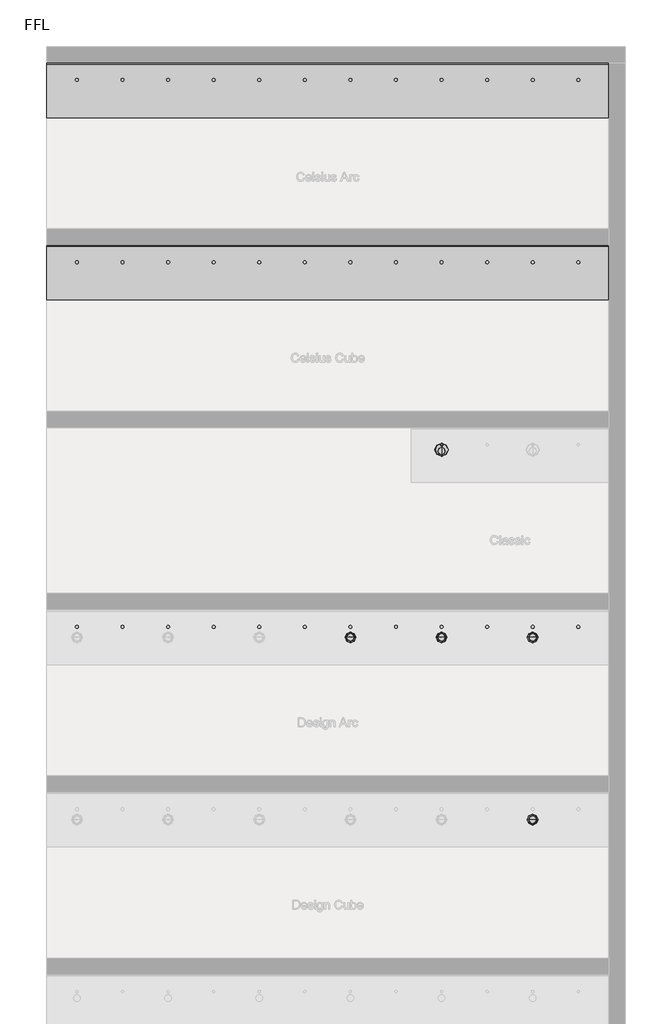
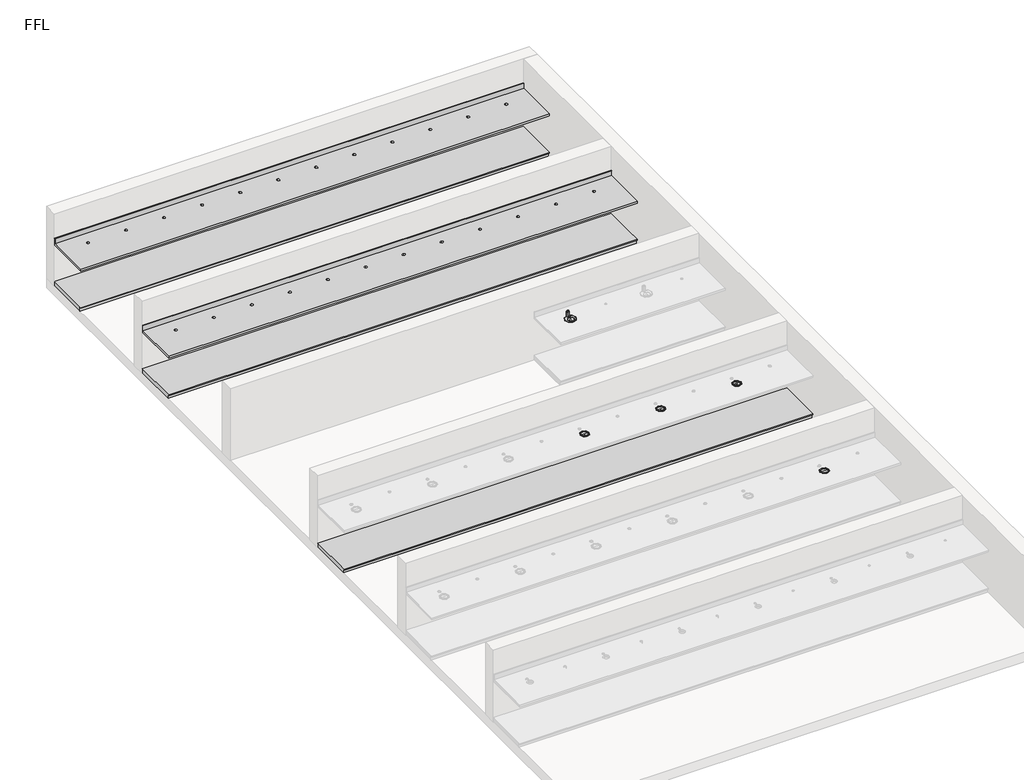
# One storey, part 3 of 5: 5 flow terminals, 5 furniture elements.
"""IFC4 building model written with IfcOpenShell, lengths in millimetres."""

from ifc_helpers import new_model, si_unit, frame, origin, place, context, project, spatial, polyline, circle_curve, transform, mapped, element, save
from ifc_brep_helpers import plane_surface, revolved_surface, advanced_brep
from components import bright_chrome_13082571, bright_chrome_743c02cf, generic_plinth_900mm_08863006

model = new_model("IFC4")

# Units and contexts
model_context = context("Model", 3, world=origin())
ifc_project = project(units=[si_unit("LENGTHUNIT", "METRE", prefix="MILLI")], contexts=[model_context])

# Site, building, storey
site = spatial("IfcSite", under=ifc_project)
building = spatial("IfcBuilding", under=site)
storey = spatial("IfcBuildingStorey", under=building, Name="FFL", Elevation=0.0)

# Flow terminals
placement = place(None, origin())
bright_chrome_shape = bright_chrome_13082571(model_context)
element("IfcFlowTerminal", 1, ObjectType="z_PlumFixt_Zip Australia_Font and Tap Riser : Bright Chrome", at=placement, inside=storey, context=model_context, shape_type="MappedRepresentation", body=[
    mapped(bright_chrome_shape, transform((-470.7352929, 7467.9893304, 900.0), x_axis=(1.0, 0.0, 0.0), y_axis=(0.0, 1.0, 0.0), z_axis=(0.0, 0.0, 1.0))),
])
bright_chrome_2_shape = bright_chrome_743c02cf(model_context)
element("IfcFlowTerminal", 2, ObjectType="z_PlumFixt_Zip Australia_Font : Gold", at=placement, inside=storey, context=model_context, shape_type="MappedRepresentation", body=[
    mapped(bright_chrome_2_shape, transform((-1970.7352929, 4381.2393304, 900.0), x_axis=(1.0, 0.0, 0.0), y_axis=(0.0, 1.0, 0.0), z_axis=(0.0, 0.0, 1.0))),
])
element("IfcFlowTerminal", 3, ObjectType="z_PlumFixt_Zip Australia_Font : Matte Black", at=placement, inside=storey, context=model_context, shape_type="MappedRepresentation", body=[
    mapped(bright_chrome_2_shape, transform((-470.7352929, 4381.2393304, 900.0), x_axis=(1.0, 0.0, 0.0), y_axis=(0.0, 1.0, 0.0), z_axis=(0.0, 0.0, 1.0))),
])
element("IfcFlowTerminal", 4, ObjectType="z_PlumFixt_Zip Australia_Font : Platinum", at=placement, inside=storey, context=model_context, shape_type="MappedRepresentation", body=[
    mapped(bright_chrome_2_shape, transform((1029.2647071, 4381.2393304, 900.0), x_axis=(1.0, 0.0, 0.0), y_axis=(0.0, 1.0, 0.0), z_axis=(0.0, 0.0, 1.0))),
])
element("IfcFlowTerminal", 5, ObjectType="z_PlumFixt_Zip Australia_Font : Platinum", at=placement, inside=storey, context=model_context, shape_type="MappedRepresentation", body=[
    mapped(bright_chrome_2_shape, transform((1029.2647071, 1381.2393304, 900.0), x_axis=(1.0, 0.0, 0.0), y_axis=(0.0, 1.0, 0.0), z_axis=(0.0, 0.0, 1.0))),
])

# Furniture
element("IfcFurniture", 6, ObjectType="Counter Top : 900mm Depth", at=placement, inside=storey, context=model_context, shape_type="AdvancedBrep", body=[
    advanced_brep(
    [(-6969.7352929, 12948.2393304, 900.0), (2280.2657919, 12948.2393304, 900.0), (2280.2657919, 13829.1893304, 900.0), (-6969.7352929, 13829.1893304, 900.0), (-6469.7352929, 13543.7393304, 900.0), (-6469.7352929, 13592.7393304, 900.0), (-5719.7352929, 13543.7393304, 900.0), (-5719.7352929, 13592.7393304, 900.0), (-4969.7352929, 13543.7393304, 900.0), (-4969.7352929, 13592.7393304, 900.0), (-4219.7352929, 13543.7393304, 900.0), (-4219.7352929, 13592.7393304, 900.0), (-3469.7352929, 13543.7393304, 900.0), (-3469.7352929, 13592.7393304, 900.0), (-2719.7352929, 13543.7393304, 900.0), (-2719.7352929, 13592.7393304, 900.0), (-1969.7352929, 13543.7393304, 900.0), (-1969.7352929, 13592.7393304, 900.0), (-1219.7352929, 13543.7393304, 900.0), (-1219.7352929, 13592.7393304, 900.0), (-469.7352929, 13543.7393304, 900.0), (-469.7352929, 13592.7393304, 900.0), (280.2647071, 13543.7393304, 900.0), (280.2647071, 13592.7393304, 900.0), (1030.2647071, 13543.7393304, 900.0), (1030.2647071, 13592.7393304, 900.0), (1780.2647071, 13543.7393304, 900.0), (1780.2647071, 13592.7393304, 900.0), (2280.2657919, 13848.2393304, 860.0), (2280.2657919, 12948.2393304, 860.0), (-6969.7352929, 12948.2393304, 860.0), (-6969.7352929, 13848.2393304, 860.0), (-6469.7352929, 13592.7393304, 860.0), (-6469.7352929, 13543.7393304, 860.0), (-5719.7352929, 13592.7393304, 860.0), (-5719.7352929, 13543.7393304, 860.0), (-4969.7352929, 13592.7393304, 860.0), (-4969.7352929, 13543.7393304, 860.0), (-4219.7352929, 13592.7393304, 860.0), (-4219.7352929, 13543.7393304, 860.0), (-3469.7352929, 13592.7393304, 860.0), (-3469.7352929, 13543.7393304, 860.0), (-2719.7352929, 13592.7393304, 860.0), (-2719.7352929, 13543.7393304, 860.0), (-1969.7352929, 13592.7393304, 860.0), (-1969.7352929, 13543.7393304, 860.0), (-1219.7352929, 13592.7393304, 860.0), (-1219.7352929, 13543.7393304, 860.0), (-469.7352929, 13592.7393304, 860.0), (-469.7352929, 13543.7393304, 860.0), (280.2647071, 13592.7393304, 860.0), (280.2647071, 13543.7393304, 860.0), (1030.2647071, 13592.7393304, 860.0), (1030.2647071, 13543.7393304, 860.0), (1780.2647071, 13592.7393304, 860.0), (1780.2647071, 13543.7393304, 860.0), (-6969.7352929, 13848.2393304, 1001.6), (2280.2657919, 13848.2393304, 1001.6), (-6969.7352929, 13829.1893304, 1001.6), (2280.2657919, 13829.1893304, 1001.6)],
    [
        (0, 1),
        (1, 2),
        (2, 3),
        (3, 0),
        (4, 5, circle_curve(frame((-6469.7352929, 13568.2393304, 900.0), z_axis=(0.0, 0.0, -1.0), x_axis=(0.0, -1.0, 0.0)), 24.5)),
        (5, 4, circle_curve(frame((-6469.7352929, 13568.2393304, 900.0), z_axis=(0.0, 0.0, -1.0), x_axis=(0.0, -1.0, 0.0)), 24.5)),
        (6, 7, circle_curve(frame((-5719.7352929, 13568.2393304, 900.0), z_axis=(0.0, 0.0, -1.0), x_axis=(0.0, -1.0, 0.0)), 24.5)),
        (7, 6, circle_curve(frame((-5719.7352929, 13568.2393304, 900.0), z_axis=(0.0, 0.0, -1.0), x_axis=(0.0, -1.0, 0.0)), 24.5)),
        (8, 9, circle_curve(frame((-4969.7352929, 13568.2393304, 900.0), z_axis=(0.0, 0.0, -1.0), x_axis=(0.0, -1.0, 0.0)), 24.5)),
        (9, 8, circle_curve(frame((-4969.7352929, 13568.2393304, 900.0), z_axis=(0.0, 0.0, -1.0), x_axis=(0.0, -1.0, 0.0)), 24.5)),
        (10, 11, circle_curve(frame((-4219.7352929, 13568.2393304, 900.0), z_axis=(0.0, 0.0, -1.0), x_axis=(0.0, -1.0, 0.0)), 24.5)),
        (11, 10, circle_curve(frame((-4219.7352929, 13568.2393304, 900.0), z_axis=(0.0, 0.0, -1.0), x_axis=(0.0, -1.0, 0.0)), 24.5)),
        (12, 13, circle_curve(frame((-3469.7352929, 13568.2393304, 900.0), z_axis=(0.0, 0.0, -1.0), x_axis=(0.0, -1.0, 0.0)), 24.5)),
        (13, 12, circle_curve(frame((-3469.7352929, 13568.2393304, 900.0), z_axis=(0.0, 0.0, -1.0), x_axis=(0.0, -1.0, 0.0)), 24.5)),
        (14, 15, circle_curve(frame((-2719.7352929, 13568.2393304, 900.0), z_axis=(0.0, 0.0, -1.0), x_axis=(0.0, -1.0, 0.0)), 24.5)),
        (15, 14, circle_curve(frame((-2719.7352929, 13568.2393304, 900.0), z_axis=(0.0, 0.0, -1.0), x_axis=(0.0, -1.0, 0.0)), 24.5)),
        (16, 17, circle_curve(frame((-1969.7352929, 13568.2393304, 900.0), z_axis=(0.0, 0.0, -1.0), x_axis=(0.0, -1.0, 0.0)), 24.5)),
        (17, 16, circle_curve(frame((-1969.7352929, 13568.2393304, 900.0), z_axis=(0.0, 0.0, -1.0), x_axis=(0.0, -1.0, 0.0)), 24.5)),
        (18, 19, circle_curve(frame((-1219.7352929, 13568.2393304, 900.0), z_axis=(0.0, 0.0, -1.0), x_axis=(0.0, -1.0, 0.0)), 24.5)),
        (19, 18, circle_curve(frame((-1219.7352929, 13568.2393304, 900.0), z_axis=(0.0, 0.0, -1.0), x_axis=(0.0, -1.0, 0.0)), 24.5)),
        (20, 21, circle_curve(frame((-469.7352929, 13568.2393304, 900.0), z_axis=(0.0, 0.0, -1.0), x_axis=(0.0, -1.0, 0.0)), 24.5)),
        (21, 20, circle_curve(frame((-469.7352929, 13568.2393304, 900.0), z_axis=(0.0, 0.0, -1.0), x_axis=(0.0, -1.0, 0.0)), 24.5)),
        (22, 23, circle_curve(frame((280.2647071, 13568.2393304, 900.0), z_axis=(0.0, 0.0, -1.0), x_axis=(0.0, -1.0, 0.0)), 24.5)),
        (23, 22, circle_curve(frame((280.2647071, 13568.2393304, 900.0), z_axis=(0.0, 0.0, -1.0), x_axis=(0.0, -1.0, 0.0)), 24.5)),
        (24, 25, circle_curve(frame((1030.2647071, 13568.2393304, 900.0), z_axis=(0.0, 0.0, -1.0), x_axis=(0.0, -1.0, 0.0)), 24.5)),
        (25, 24, circle_curve(frame((1030.2647071, 13568.2393304, 900.0), z_axis=(0.0, 0.0, -1.0), x_axis=(0.0, -1.0, 0.0)), 24.5)),
        (26, 27, circle_curve(frame((1780.2647071, 13568.2393304, 900.0), z_axis=(0.0, 0.0, -1.0), x_axis=(0.0, -1.0, 0.0)), 24.5)),
        (27, 26, circle_curve(frame((1780.2647071, 13568.2393304, 900.0), z_axis=(0.0, 0.0, -1.0), x_axis=(0.0, -1.0, 0.0)), 24.5)),
        (28, 29),
        (29, 30),
        (30, 31),
        (31, 28),
        (32, 33, circle_curve(frame((-6469.7352929, 13568.2393304, 860.0), z_axis=(0.0, 0.0, 1.0), x_axis=(0.0, -1.0, 0.0)), 24.5)),
        (33, 32, circle_curve(frame((-6469.7352929, 13568.2393304, 860.0), z_axis=(0.0, 0.0, 1.0), x_axis=(0.0, -1.0, 0.0)), 24.5)),
        (34, 35, circle_curve(frame((-5719.7352929, 13568.2393304, 860.0), z_axis=(0.0, 0.0, 1.0), x_axis=(0.0, -1.0, 0.0)), 24.5)),
        (35, 34, circle_curve(frame((-5719.7352929, 13568.2393304, 860.0), z_axis=(0.0, 0.0, 1.0), x_axis=(0.0, -1.0, 0.0)), 24.5)),
        (36, 37, circle_curve(frame((-4969.7352929, 13568.2393304, 860.0), z_axis=(0.0, 0.0, 1.0), x_axis=(0.0, -1.0, 0.0)), 24.5)),
        (37, 36, circle_curve(frame((-4969.7352929, 13568.2393304, 860.0), z_axis=(0.0, 0.0, 1.0), x_axis=(0.0, -1.0, 0.0)), 24.5)),
        (38, 39, circle_curve(frame((-4219.7352929, 13568.2393304, 860.0), z_axis=(0.0, 0.0, 1.0), x_axis=(0.0, -1.0, 0.0)), 24.5)),
        (39, 38, circle_curve(frame((-4219.7352929, 13568.2393304, 860.0), z_axis=(0.0, 0.0, 1.0), x_axis=(0.0, -1.0, 0.0)), 24.5)),
        (40, 41, circle_curve(frame((-3469.7352929, 13568.2393304, 860.0), z_axis=(0.0, 0.0, 1.0), x_axis=(0.0, -1.0, 0.0)), 24.5)),
        (41, 40, circle_curve(frame((-3469.7352929, 13568.2393304, 860.0), z_axis=(0.0, 0.0, 1.0), x_axis=(0.0, -1.0, 0.0)), 24.5)),
        (42, 43, circle_curve(frame((-2719.7352929, 13568.2393304, 860.0), z_axis=(0.0, 0.0, 1.0), x_axis=(0.0, -1.0, 0.0)), 24.5)),
        (43, 42, circle_curve(frame((-2719.7352929, 13568.2393304, 860.0), z_axis=(0.0, 0.0, 1.0), x_axis=(0.0, -1.0, 0.0)), 24.5)),
        (44, 45, circle_curve(frame((-1969.7352929, 13568.2393304, 860.0), z_axis=(0.0, 0.0, 1.0), x_axis=(0.0, -1.0, 0.0)), 24.5)),
        (45, 44, circle_curve(frame((-1969.7352929, 13568.2393304, 860.0), z_axis=(0.0, 0.0, 1.0), x_axis=(0.0, -1.0, 0.0)), 24.5)),
        (46, 47, circle_curve(frame((-1219.7352929, 13568.2393304, 860.0), z_axis=(0.0, 0.0, 1.0), x_axis=(0.0, -1.0, 0.0)), 24.5)),
        (47, 46, circle_curve(frame((-1219.7352929, 13568.2393304, 860.0), z_axis=(0.0, 0.0, 1.0), x_axis=(0.0, -1.0, 0.0)), 24.5)),
        (48, 49, circle_curve(frame((-469.7352929, 13568.2393304, 860.0), z_axis=(0.0, 0.0, 1.0), x_axis=(0.0, -1.0, 0.0)), 24.5)),
        (49, 48, circle_curve(frame((-469.7352929, 13568.2393304, 860.0), z_axis=(0.0, 0.0, 1.0), x_axis=(0.0, -1.0, 0.0)), 24.5)),
        (50, 51, circle_curve(frame((280.2647071, 13568.2393304, 860.0), z_axis=(0.0, 0.0, 1.0), x_axis=(0.0, -1.0, 0.0)), 24.5)),
        (51, 50, circle_curve(frame((280.2647071, 13568.2393304, 860.0), z_axis=(0.0, 0.0, 1.0), x_axis=(0.0, -1.0, 0.0)), 24.5)),
        (52, 53, circle_curve(frame((1030.2647071, 13568.2393304, 860.0), z_axis=(0.0, 0.0, 1.0), x_axis=(0.0, -1.0, 0.0)), 24.5)),
        (53, 52, circle_curve(frame((1030.2647071, 13568.2393304, 860.0), z_axis=(0.0, 0.0, 1.0), x_axis=(0.0, -1.0, 0.0)), 24.5)),
        (54, 55, circle_curve(frame((1780.2647071, 13568.2393304, 860.0), z_axis=(0.0, 0.0, 1.0), x_axis=(0.0, -1.0, 0.0)), 24.5)),
        (55, 54, circle_curve(frame((1780.2647071, 13568.2393304, 860.0), z_axis=(0.0, 0.0, 1.0), x_axis=(0.0, -1.0, 0.0)), 24.5)),
        (31, 56),
        (56, 57),
        (57, 28),
        (3, 58),
        (58, 56),
        (30, 0),
        (29, 1),
        (57, 59),
        (59, 2),
        (58, 59),
        (32, 5),
        (4, 33),
        (34, 7),
        (6, 35),
        (36, 9),
        (8, 37),
        (38, 11),
        (10, 39),
        (40, 13),
        (12, 41),
        (42, 15),
        (14, 43),
        (44, 17),
        (16, 45),
        (46, 19),
        (18, 47),
        (48, 21),
        (20, 49),
        (50, 23),
        (22, 51),
        (52, 25),
        (24, 53),
        (54, 27),
        (26, 55),
    ],
    [
        plane_surface(frame((-6969.7352929, 13848.2393304, 900.0), z_axis=(0.0, 0.0, 1.0), x_axis=(-1.0, 0.0, 0.0))),
        plane_surface(frame((-6969.7352929, 13848.2393304, 860.0), z_axis=(0.0, 0.0, -1.0), x_axis=(1.0, 0.0, 0.0))),
        plane_surface(frame((2280.2657919, 13848.2393304, 900.0), z_axis=(0.0, 1.0, 0.0), x_axis=(0.0, 0.0, -1.0))),
        plane_surface(frame((-6969.7352929, 13848.2393304, 900.0), z_axis=(-1.0, 0.0, 0.0), x_axis=(0.0, 0.0, -1.0))),
        plane_surface(frame((-6969.7352929, 12948.2393304, 900.0), z_axis=(0.0, -1.0, 0.0), x_axis=(0.0, 0.0, -1.0))),
        plane_surface(frame((2280.2657919, 12948.2393304, 900.0), z_axis=(1.0, 0.0, 0.0), x_axis=(0.0, 0.0, -1.0))),
        plane_surface(frame((-6969.7352929, 13848.2393304, 1001.6), z_axis=(0.0, 0.0, 1.0), x_axis=(0.0, -1.0, 0.0))),
        plane_surface(frame((-6969.7352929, 13829.1893304, 1001.6), z_axis=(0.0, -1.0, 0.0), x_axis=(0.0, 0.0, -1.0))),
        revolved_surface(polyline([(-6469.7352929, 13543.7393304, 900.0), (-6469.7352929, 13543.7393304, 860.0)]), (-6469.7352929, 13568.2393304, 700.0), (0.0, 0.0, 1.0)),
        revolved_surface(polyline([(-5719.7352929, 13543.7393304, 900.0), (-5719.7352929, 13543.7393304, 860.0)]), (-5719.7352929, 13568.2393304, 700.0), (0.0, 0.0, 1.0)),
        revolved_surface(polyline([(-4969.7352929, 13543.7393304, 900.0), (-4969.7352929, 13543.7393304, 860.0)]), (-4969.7352929, 13568.2393304, 700.0), (0.0, 0.0, 1.0)),
        revolved_surface(polyline([(-4219.7352929, 13543.7393304, 900.0), (-4219.7352929, 13543.7393304, 860.0)]), (-4219.7352929, 13568.2393304, 700.0), (0.0, 0.0, 1.0)),
        revolved_surface(polyline([(-3469.7352929, 13543.7393304, 900.0), (-3469.7352929, 13543.7393304, 860.0)]), (-3469.7352929, 13568.2393304, 700.0), (0.0, 0.0, 1.0)),
        revolved_surface(polyline([(-2719.7352929, 13543.7393304, 900.0), (-2719.7352929, 13543.7393304, 860.0)]), (-2719.7352929, 13568.2393304, 700.0), (0.0, 0.0, 1.0)),
        revolved_surface(polyline([(-1969.7352929, 13543.7393304, 900.0), (-1969.7352929, 13543.7393304, 860.0)]), (-1969.7352929, 13568.2393304, 700.0), (0.0, 0.0, 1.0)),
        revolved_surface(polyline([(-1219.7352929, 13543.7393304, 900.0), (-1219.7352929, 13543.7393304, 860.0)]), (-1219.7352929, 13568.2393304, 700.0), (0.0, 0.0, 1.0)),
        revolved_surface(polyline([(-469.7352929, 13543.7393304, 900.0), (-469.7352929, 13543.7393304, 860.0)]), (-469.7352929, 13568.2393304, 700.0), (0.0, 0.0, 1.0)),
        revolved_surface(polyline([(280.2647071, 13543.7393304, 900.0), (280.2647071, 13543.7393304, 860.0)]), (280.2647071, 13568.2393304, 700.0), (0.0, 0.0, 1.0)),
        revolved_surface(polyline([(1030.2647071, 13543.7393304, 900.0), (1030.2647071, 13543.7393304, 860.0)]), (1030.2647071, 13568.2393304, 700.0), (0.0, 0.0, 1.0)),
        revolved_surface(polyline([(1780.2647071, 13543.7393304, 900.0), (1780.2647071, 13543.7393304, 860.0)]), (1780.2647071, 13568.2393304, 700.0), (0.0, 0.0, 1.0)),
    ],
    [
        (0, [[1, 2, 3, 4], [5, 6], [7, 8], [9, 10], [11, 12], [13, 14], [15, 16], [17, 18], [19, 20], [21, 22], [23, 24], [25, 26], [27, 28]]),
        (1, [[29, 30, 31, 32], [33, 34], [35, 36], [37, 38], [39, 40], [41, 42], [43, 44], [45, 46], [47, 48], [49, 50], [51, 52], [53, 54], [55, 56]]),
        (2, [[-32, 57, 58, 59]]),
        (3, [[-4, 60, 61, -57, -31, 62]]),
        (4, [[-1, -62, -30, 63]]),
        (5, [[-2, -63, -29, -59, 64, 65]]),
        (6, [[-58, -61, 66, -64]]),
        (7, [[-3, -65, -66, -60]]),
        (8, [[67, -5, 68, -33]]),
        (8, [[-67, -34, -68, -6]]),
        (9, [[69, -7, 70, -35]]),
        (9, [[-69, -36, -70, -8]]),
        (10, [[71, -9, 72, -37]]),
        (10, [[-71, -38, -72, -10]]),
        (11, [[73, -11, 74, -39]]),
        (11, [[-73, -40, -74, -12]]),
        (12, [[75, -13, 76, -41]]),
        (12, [[-75, -42, -76, -14]]),
        (13, [[77, -15, 78, -43]]),
        (13, [[-77, -44, -78, -16]]),
        (14, [[79, -17, 80, -45]]),
        (14, [[-79, -46, -80, -18]]),
        (15, [[81, -19, 82, -47]]),
        (15, [[-81, -48, -82, -20]]),
        (16, [[83, -21, 84, -49]]),
        (16, [[-83, -50, -84, -22]]),
        (17, [[85, -23, 86, -51]]),
        (17, [[-85, -52, -86, -24]]),
        (18, [[87, -25, 88, -53]]),
        (18, [[-87, -54, -88, -26]]),
        (19, [[89, -27, 90, -55]]),
        (19, [[-89, -56, -90, -28]]),
    ],
),
])
element("IfcFurniture", 7, ObjectType="Counter Top : 900mm Depth", at=placement, inside=storey, context=model_context, shape_type="AdvancedBrep", body=[
    advanced_brep(
    [(-6969.7352929, 9948.2393304, 900.0), (2280.2657919, 9948.2393304, 900.0), (2280.2657919, 10829.1893304, 900.0), (-6969.7352929, 10829.1893304, 900.0), (-6469.7352929, 10543.7393304, 900.0), (-6469.7352929, 10592.7393304, 900.0), (-5719.7352929, 10543.7393304, 900.0), (-5719.7352929, 10592.7393304, 900.0), (-4969.7352929, 10543.7393304, 900.0), (-4969.7352929, 10592.7393304, 900.0), (-4219.7352929, 10543.7393304, 900.0), (-4219.7352929, 10592.7393304, 900.0), (-3469.7352929, 10543.7393304, 900.0), (-3469.7352929, 10592.7393304, 900.0), (-2719.7352929, 10543.7393304, 900.0), (-2719.7352929, 10592.7393304, 900.0), (-1969.7352929, 10543.7393304, 900.0), (-1969.7352929, 10592.7393304, 900.0), (-1219.7352929, 10543.7393304, 900.0), (-1219.7352929, 10592.7393304, 900.0), (-469.7352929, 10543.7393304, 900.0), (-469.7352929, 10592.7393304, 900.0), (280.2647071, 10543.7393304, 900.0), (280.2647071, 10592.7393304, 900.0), (1030.2647071, 10543.7393304, 900.0), (1030.2647071, 10592.7393304, 900.0), (1780.2647071, 10543.7393304, 900.0), (1780.2647071, 10592.7393304, 900.0), (2280.2657919, 10848.2393304, 860.0), (2280.2657919, 9948.2393304, 860.0), (-6969.7352929, 9948.2393304, 860.0), (-6969.7352929, 10848.2393304, 860.0), (-6469.7352929, 10592.7393304, 860.0), (-6469.7352929, 10543.7393304, 860.0), (-5719.7352929, 10592.7393304, 860.0), (-5719.7352929, 10543.7393304, 860.0), (-4969.7352929, 10592.7393304, 860.0), (-4969.7352929, 10543.7393304, 860.0), (-4219.7352929, 10592.7393304, 860.0), (-4219.7352929, 10543.7393304, 860.0), (-3469.7352929, 10592.7393304, 860.0), (-3469.7352929, 10543.7393304, 860.0), (-2719.7352929, 10592.7393304, 860.0), (-2719.7352929, 10543.7393304, 860.0), (-1969.7352929, 10592.7393304, 860.0), (-1969.7352929, 10543.7393304, 860.0), (-1219.7352929, 10592.7393304, 860.0), (-1219.7352929, 10543.7393304, 860.0), (-469.7352929, 10592.7393304, 860.0), (-469.7352929, 10543.7393304, 860.0), (280.2647071, 10592.7393304, 860.0), (280.2647071, 10543.7393304, 860.0), (1030.2647071, 10592.7393304, 860.0), (1030.2647071, 10543.7393304, 860.0), (1780.2647071, 10592.7393304, 860.0), (1780.2647071, 10543.7393304, 860.0), (-6969.7352929, 10848.2393304, 1001.6), (2280.2657919, 10848.2393304, 1001.6), (-6969.7352929, 10829.1893304, 1001.6), (2280.2657919, 10829.1893304, 1001.6)],
    [
        (0, 1),
        (1, 2),
        (2, 3),
        (3, 0),
        (4, 5, circle_curve(frame((-6469.7352929, 10568.2393304, 900.0), z_axis=(0.0, 0.0, -1.0), x_axis=(0.0, -1.0, 0.0)), 24.5)),
        (5, 4, circle_curve(frame((-6469.7352929, 10568.2393304, 900.0), z_axis=(0.0, 0.0, -1.0), x_axis=(0.0, -1.0, 0.0)), 24.5)),
        (6, 7, circle_curve(frame((-5719.7352929, 10568.2393304, 900.0), z_axis=(0.0, 0.0, -1.0), x_axis=(0.0, -1.0, 0.0)), 24.5)),
        (7, 6, circle_curve(frame((-5719.7352929, 10568.2393304, 900.0), z_axis=(0.0, 0.0, -1.0), x_axis=(0.0, -1.0, 0.0)), 24.5)),
        (8, 9, circle_curve(frame((-4969.7352929, 10568.2393304, 900.0), z_axis=(0.0, 0.0, -1.0), x_axis=(0.0, -1.0, 0.0)), 24.5)),
        (9, 8, circle_curve(frame((-4969.7352929, 10568.2393304, 900.0), z_axis=(0.0, 0.0, -1.0), x_axis=(0.0, -1.0, 0.0)), 24.5)),
        (10, 11, circle_curve(frame((-4219.7352929, 10568.2393304, 900.0), z_axis=(0.0, 0.0, -1.0), x_axis=(0.0, -1.0, 0.0)), 24.5)),
        (11, 10, circle_curve(frame((-4219.7352929, 10568.2393304, 900.0), z_axis=(0.0, 0.0, -1.0), x_axis=(0.0, -1.0, 0.0)), 24.5)),
        (12, 13, circle_curve(frame((-3469.7352929, 10568.2393304, 900.0), z_axis=(0.0, 0.0, -1.0), x_axis=(0.0, -1.0, 0.0)), 24.5)),
        (13, 12, circle_curve(frame((-3469.7352929, 10568.2393304, 900.0), z_axis=(0.0, 0.0, -1.0), x_axis=(0.0, -1.0, 0.0)), 24.5)),
        (14, 15, circle_curve(frame((-2719.7352929, 10568.2393304, 900.0), z_axis=(0.0, 0.0, -1.0), x_axis=(0.0, -1.0, 0.0)), 24.5)),
        (15, 14, circle_curve(frame((-2719.7352929, 10568.2393304, 900.0), z_axis=(0.0, 0.0, -1.0), x_axis=(0.0, -1.0, 0.0)), 24.5)),
        (16, 17, circle_curve(frame((-1969.7352929, 10568.2393304, 900.0), z_axis=(0.0, 0.0, -1.0), x_axis=(0.0, -1.0, 0.0)), 24.5)),
        (17, 16, circle_curve(frame((-1969.7352929, 10568.2393304, 900.0), z_axis=(0.0, 0.0, -1.0), x_axis=(0.0, -1.0, 0.0)), 24.5)),
        (18, 19, circle_curve(frame((-1219.7352929, 10568.2393304, 900.0), z_axis=(0.0, 0.0, -1.0), x_axis=(0.0, -1.0, 0.0)), 24.5)),
        (19, 18, circle_curve(frame((-1219.7352929, 10568.2393304, 900.0), z_axis=(0.0, 0.0, -1.0), x_axis=(0.0, -1.0, 0.0)), 24.5)),
        (20, 21, circle_curve(frame((-469.7352929, 10568.2393304, 900.0), z_axis=(0.0, 0.0, -1.0), x_axis=(0.0, -1.0, 0.0)), 24.5)),
        (21, 20, circle_curve(frame((-469.7352929, 10568.2393304, 900.0), z_axis=(0.0, 0.0, -1.0), x_axis=(0.0, -1.0, 0.0)), 24.5)),
        (22, 23, circle_curve(frame((280.2647071, 10568.2393304, 900.0), z_axis=(0.0, 0.0, -1.0), x_axis=(0.0, -1.0, 0.0)), 24.5)),
        (23, 22, circle_curve(frame((280.2647071, 10568.2393304, 900.0), z_axis=(0.0, 0.0, -1.0), x_axis=(0.0, -1.0, 0.0)), 24.5)),
        (24, 25, circle_curve(frame((1030.2647071, 10568.2393304, 900.0), z_axis=(0.0, 0.0, -1.0), x_axis=(0.0, -1.0, 0.0)), 24.5)),
        (25, 24, circle_curve(frame((1030.2647071, 10568.2393304, 900.0), z_axis=(0.0, 0.0, -1.0), x_axis=(0.0, -1.0, 0.0)), 24.5)),
        (26, 27, circle_curve(frame((1780.2647071, 10568.2393304, 900.0), z_axis=(0.0, 0.0, -1.0), x_axis=(0.0, -1.0, 0.0)), 24.5)),
        (27, 26, circle_curve(frame((1780.2647071, 10568.2393304, 900.0), z_axis=(0.0, 0.0, -1.0), x_axis=(0.0, -1.0, 0.0)), 24.5)),
        (28, 29),
        (29, 30),
        (30, 31),
        (31, 28),
        (32, 33, circle_curve(frame((-6469.7352929, 10568.2393304, 860.0), z_axis=(0.0, 0.0, 1.0), x_axis=(0.0, -1.0, 0.0)), 24.5)),
        (33, 32, circle_curve(frame((-6469.7352929, 10568.2393304, 860.0), z_axis=(0.0, 0.0, 1.0), x_axis=(0.0, -1.0, 0.0)), 24.5)),
        (34, 35, circle_curve(frame((-5719.7352929, 10568.2393304, 860.0), z_axis=(0.0, 0.0, 1.0), x_axis=(0.0, -1.0, 0.0)), 24.5)),
        (35, 34, circle_curve(frame((-5719.7352929, 10568.2393304, 860.0), z_axis=(0.0, 0.0, 1.0), x_axis=(0.0, -1.0, 0.0)), 24.5)),
        (36, 37, circle_curve(frame((-4969.7352929, 10568.2393304, 860.0), z_axis=(0.0, 0.0, 1.0), x_axis=(0.0, -1.0, 0.0)), 24.5)),
        (37, 36, circle_curve(frame((-4969.7352929, 10568.2393304, 860.0), z_axis=(0.0, 0.0, 1.0), x_axis=(0.0, -1.0, 0.0)), 24.5)),
        (38, 39, circle_curve(frame((-4219.7352929, 10568.2393304, 860.0), z_axis=(0.0, 0.0, 1.0), x_axis=(0.0, -1.0, 0.0)), 24.5)),
        (39, 38, circle_curve(frame((-4219.7352929, 10568.2393304, 860.0), z_axis=(0.0, 0.0, 1.0), x_axis=(0.0, -1.0, 0.0)), 24.5)),
        (40, 41, circle_curve(frame((-3469.7352929, 10568.2393304, 860.0), z_axis=(0.0, 0.0, 1.0), x_axis=(0.0, -1.0, 0.0)), 24.5)),
        (41, 40, circle_curve(frame((-3469.7352929, 10568.2393304, 860.0), z_axis=(0.0, 0.0, 1.0), x_axis=(0.0, -1.0, 0.0)), 24.5)),
        (42, 43, circle_curve(frame((-2719.7352929, 10568.2393304, 860.0), z_axis=(0.0, 0.0, 1.0), x_axis=(0.0, -1.0, 0.0)), 24.5)),
        (43, 42, circle_curve(frame((-2719.7352929, 10568.2393304, 860.0), z_axis=(0.0, 0.0, 1.0), x_axis=(0.0, -1.0, 0.0)), 24.5)),
        (44, 45, circle_curve(frame((-1969.7352929, 10568.2393304, 860.0), z_axis=(0.0, 0.0, 1.0), x_axis=(0.0, -1.0, 0.0)), 24.5)),
        (45, 44, circle_curve(frame((-1969.7352929, 10568.2393304, 860.0), z_axis=(0.0, 0.0, 1.0), x_axis=(0.0, -1.0, 0.0)), 24.5)),
        (46, 47, circle_curve(frame((-1219.7352929, 10568.2393304, 860.0), z_axis=(0.0, 0.0, 1.0), x_axis=(0.0, -1.0, 0.0)), 24.5)),
        (47, 46, circle_curve(frame((-1219.7352929, 10568.2393304, 860.0), z_axis=(0.0, 0.0, 1.0), x_axis=(0.0, -1.0, 0.0)), 24.5)),
        (48, 49, circle_curve(frame((-469.7352929, 10568.2393304, 860.0), z_axis=(0.0, 0.0, 1.0), x_axis=(0.0, -1.0, 0.0)), 24.5)),
        (49, 48, circle_curve(frame((-469.7352929, 10568.2393304, 860.0), z_axis=(0.0, 0.0, 1.0), x_axis=(0.0, -1.0, 0.0)), 24.5)),
        (50, 51, circle_curve(frame((280.2647071, 10568.2393304, 860.0), z_axis=(0.0, 0.0, 1.0), x_axis=(0.0, -1.0, 0.0)), 24.5)),
        (51, 50, circle_curve(frame((280.2647071, 10568.2393304, 860.0), z_axis=(0.0, 0.0, 1.0), x_axis=(0.0, -1.0, 0.0)), 24.5)),
        (52, 53, circle_curve(frame((1030.2647071, 10568.2393304, 860.0), z_axis=(0.0, 0.0, 1.0), x_axis=(0.0, -1.0, 0.0)), 24.5)),
        (53, 52, circle_curve(frame((1030.2647071, 10568.2393304, 860.0), z_axis=(0.0, 0.0, 1.0), x_axis=(0.0, -1.0, 0.0)), 24.5)),
        (54, 55, circle_curve(frame((1780.2647071, 10568.2393304, 860.0), z_axis=(0.0, 0.0, 1.0), x_axis=(0.0, -1.0, 0.0)), 24.5)),
        (55, 54, circle_curve(frame((1780.2647071, 10568.2393304, 860.0), z_axis=(0.0, 0.0, 1.0), x_axis=(0.0, -1.0, 0.0)), 24.5)),
        (31, 56),
        (56, 57),
        (57, 28),
        (3, 58),
        (58, 56),
        (30, 0),
        (29, 1),
        (57, 59),
        (59, 2),
        (58, 59),
        (32, 5),
        (4, 33),
        (34, 7),
        (6, 35),
        (36, 9),
        (8, 37),
        (38, 11),
        (10, 39),
        (40, 13),
        (12, 41),
        (42, 15),
        (14, 43),
        (44, 17),
        (16, 45),
        (46, 19),
        (18, 47),
        (48, 21),
        (20, 49),
        (50, 23),
        (22, 51),
        (52, 25),
        (24, 53),
        (54, 27),
        (26, 55),
    ],
    [
        plane_surface(frame((-6969.7352929, 10848.2393304, 900.0), z_axis=(0.0, 0.0, 1.0), x_axis=(-1.0, 0.0, 0.0))),
        plane_surface(frame((-6969.7352929, 10848.2393304, 860.0), z_axis=(0.0, 0.0, -1.0), x_axis=(1.0, 0.0, 0.0))),
        plane_surface(frame((2280.2657919, 10848.2393304, 900.0), z_axis=(0.0, 1.0, 0.0), x_axis=(0.0, 0.0, -1.0))),
        plane_surface(frame((-6969.7352929, 10848.2393304, 900.0), z_axis=(-1.0, 0.0, 0.0), x_axis=(0.0, 0.0, -1.0))),
        plane_surface(frame((-6969.7352929, 9948.2393304, 900.0), z_axis=(0.0, -1.0, 0.0), x_axis=(0.0, 0.0, -1.0))),
        plane_surface(frame((2280.2657919, 9948.2393304, 900.0), z_axis=(1.0, 0.0, 0.0), x_axis=(0.0, 0.0, -1.0))),
        plane_surface(frame((-6969.7352929, 10848.2393304, 1001.6), z_axis=(0.0, 0.0, 1.0), x_axis=(0.0, -1.0, 0.0))),
        plane_surface(frame((-6969.7352929, 10829.1893304, 1001.6), z_axis=(0.0, -1.0, 0.0), x_axis=(0.0, 0.0, -1.0))),
        revolved_surface(polyline([(-6469.7352929, 10543.7393304, 900.0), (-6469.7352929, 10543.7393304, 860.0)]), (-6469.7352929, 10568.2393304, 700.0), (0.0, 0.0, 1.0)),
        revolved_surface(polyline([(-5719.7352929, 10543.7393304, 900.0), (-5719.7352929, 10543.7393304, 860.0)]), (-5719.7352929, 10568.2393304, 700.0), (0.0, 0.0, 1.0)),
        revolved_surface(polyline([(-4969.7352929, 10543.7393304, 900.0), (-4969.7352929, 10543.7393304, 860.0)]), (-4969.7352929, 10568.2393304, 700.0), (0.0, 0.0, 1.0)),
        revolved_surface(polyline([(-4219.7352929, 10543.7393304, 900.0), (-4219.7352929, 10543.7393304, 860.0)]), (-4219.7352929, 10568.2393304, 700.0), (0.0, 0.0, 1.0)),
        revolved_surface(polyline([(-3469.7352929, 10543.7393304, 900.0), (-3469.7352929, 10543.7393304, 860.0)]), (-3469.7352929, 10568.2393304, 700.0), (0.0, 0.0, 1.0)),
        revolved_surface(polyline([(-2719.7352929, 10543.7393304, 900.0), (-2719.7352929, 10543.7393304, 860.0)]), (-2719.7352929, 10568.2393304, 700.0), (0.0, 0.0, 1.0)),
        revolved_surface(polyline([(-1969.7352929, 10543.7393304, 900.0), (-1969.7352929, 10543.7393304, 860.0)]), (-1969.7352929, 10568.2393304, 700.0), (0.0, 0.0, 1.0)),
        revolved_surface(polyline([(-1219.7352929, 10543.7393304, 900.0), (-1219.7352929, 10543.7393304, 860.0)]), (-1219.7352929, 10568.2393304, 700.0), (0.0, 0.0, 1.0)),
        revolved_surface(polyline([(-469.7352929, 10543.7393304, 900.0), (-469.7352929, 10543.7393304, 860.0)]), (-469.7352929, 10568.2393304, 700.0), (0.0, 0.0, 1.0)),
        revolved_surface(polyline([(280.2647071, 10543.7393304, 900.0), (280.2647071, 10543.7393304, 860.0)]), (280.2647071, 10568.2393304, 700.0), (0.0, 0.0, 1.0)),
        revolved_surface(polyline([(1030.2647071, 10543.7393304, 900.0), (1030.2647071, 10543.7393304, 860.0)]), (1030.2647071, 10568.2393304, 700.0), (0.0, 0.0, 1.0)),
        revolved_surface(polyline([(1780.2647071, 10543.7393304, 900.0), (1780.2647071, 10543.7393304, 860.0)]), (1780.2647071, 10568.2393304, 700.0), (0.0, 0.0, 1.0)),
    ],
    [
        (0, [[1, 2, 3, 4], [5, 6], [7, 8], [9, 10], [11, 12], [13, 14], [15, 16], [17, 18], [19, 20], [21, 22], [23, 24], [25, 26], [27, 28]]),
        (1, [[29, 30, 31, 32], [33, 34], [35, 36], [37, 38], [39, 40], [41, 42], [43, 44], [45, 46], [47, 48], [49, 50], [51, 52], [53, 54], [55, 56]]),
        (2, [[-32, 57, 58, 59]]),
        (3, [[-4, 60, 61, -57, -31, 62]]),
        (4, [[-1, -62, -30, 63]]),
        (5, [[-2, -63, -29, -59, 64, 65]]),
        (6, [[-58, -61, 66, -64]]),
        (7, [[-3, -65, -66, -60]]),
        (8, [[67, -5, 68, -33]]),
        (8, [[-67, -34, -68, -6]]),
        (9, [[69, -7, 70, -35]]),
        (9, [[-69, -36, -70, -8]]),
        (10, [[71, -9, 72, -37]]),
        (10, [[-71, -38, -72, -10]]),
        (11, [[73, -11, 74, -39]]),
        (11, [[-73, -40, -74, -12]]),
        (12, [[75, -13, 76, -41]]),
        (12, [[-75, -42, -76, -14]]),
        (13, [[77, -15, 78, -43]]),
        (13, [[-77, -44, -78, -16]]),
        (14, [[79, -17, 80, -45]]),
        (14, [[-79, -46, -80, -18]]),
        (15, [[81, -19, 82, -47]]),
        (15, [[-81, -48, -82, -20]]),
        (16, [[83, -21, 84, -49]]),
        (16, [[-83, -50, -84, -22]]),
        (17, [[85, -23, 86, -51]]),
        (17, [[-85, -52, -86, -24]]),
        (18, [[87, -25, 88, -53]]),
        (18, [[-87, -54, -88, -26]]),
        (19, [[89, -27, 90, -55]]),
        (19, [[-89, -56, -90, -28]]),
    ],
),
])
generic_plinth_900mm_shape = generic_plinth_900mm_08863006(model_context)
element("IfcFurniture", 8, ObjectType="Generic Plinth : 900mm", at=placement, inside=storey, context=model_context, shape_type="MappedRepresentation", body=[
    mapped(generic_plinth_900mm_shape, transform((-2363.4724554, 13848.2393304, 0.0), x_axis=(1.0, 0.0, 0.0), y_axis=(0.0, 1.0, 0.0), z_axis=(0.0, 0.0, 1.0))),
])
element("IfcFurniture", 9, ObjectType="Generic Plinth : 900mm", at=placement, inside=storey, context=model_context, shape_type="MappedRepresentation", body=[
    mapped(generic_plinth_900mm_shape, transform((-2363.4724554, 10848.2393304, 0.0), x_axis=(1.0, 0.0, 0.0), y_axis=(0.0, 1.0, 0.0), z_axis=(0.0, 0.0, 1.0))),
])
element("IfcFurniture", 10, ObjectType="Generic Plinth : 900mm", at=placement, inside=storey, context=model_context, shape_type="MappedRepresentation", body=[
    mapped(generic_plinth_900mm_shape, transform((-2363.4724554, 4848.2393304, 0.0), x_axis=(1.0, 0.0, 0.0), y_axis=(0.0, 1.0, 0.0), z_axis=(0.0, 0.0, 1.0))),
])

save(model, "model.ifc")
